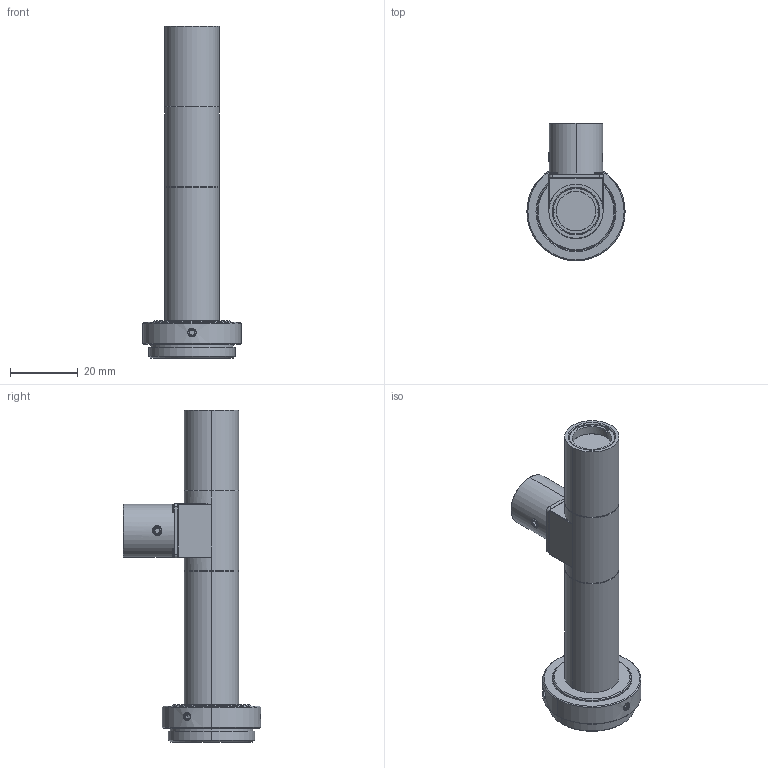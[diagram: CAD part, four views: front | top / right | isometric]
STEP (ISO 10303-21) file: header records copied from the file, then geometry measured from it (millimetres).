
FILE_DESCRIPTION (( 'STEP AP203' ), '1' );
FILE_NAME ('MML3-ST110DS_A03937A0100101A-001.STEP', '2013-12-12T01:34:45', ( 'SCHOTT' ), ( 'SCHOTT' ), 'SwSTEP 2.0', 'SolidWorks 2011', '' );
FILE_SCHEMA (( 'CONFIG_CONTROL_DESIGN' ));
Length unit declared in the file: millimetre
Products named in the file (1): MML3-ST110DS_A03937A0100101A-001
Bounding box: 29 x 40.5 x 97.9 mm (x, y, z)
Volume: 18455.6 mm3; surface area: 10828.1 mm2
Topology: 1 solids, 5 shells, 426 faces, 1022 edges, 623 vertices
Faces by surface type: plane 191, cone 133, cylinder 78, torus 16, sphere 8
Entity records: 12956 total; most frequent: CARTESIAN_POINT 3045, DIRECTION 2137, ORIENTED_EDGE 2028, EDGE_CURVE 1014, AXIS2_PLACEMENT_3D 881, VERTEX_POINT 623, EDGE_LOOP 461, CIRCLE 454
